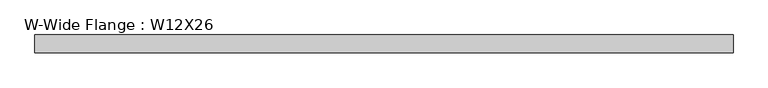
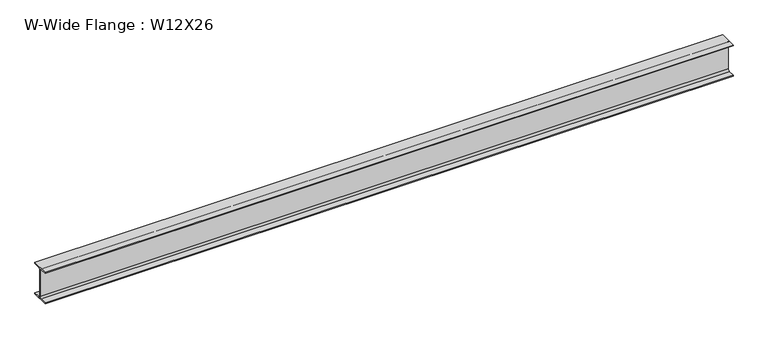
"""IFC4 building model written with IfcOpenShell, lengths in millimetres: beam geometry, W-Wide Flange : W12X26."""

from ifc_helpers import new_model, si_unit, point, frame, frame_2d, origin, place, context, project, spatial, polyline, circle_curve, trimmed, segment, composite_curve, outline, extrude, source, transform, mapped, element, save


def w_wide_flange_w12x26_3f871b78(model_context):
    return source(origin(), model_context, "Body", "SweptSolid", [
        extrude(outline(composite_curve([segment(polyline([(82.4011719, -145.5539063), (82.4011719, -155.178125), (-82.4011719, -155.178125), (-82.4011719, -145.5539063), (-20.2902344, -145.5539063)]), True, "CONTINUOUS"), segment(trimmed(circle_curve(frame_2d((-20.2902344, -128.190625)), 17.3632812), [point((-20.2902344, -145.5539063))], [point((-2.9269531, -128.190625))], True, "CARTESIAN"), True, "CONTINUOUS"), segment(polyline([(-2.9269531, -128.190625), (-2.9269531, 128.190625)]), True, "CONTINUOUS"), segment(trimmed(circle_curve(frame_2d((-20.2902344, 128.190625)), 17.3632812), [point((-2.9269531, 128.190625))], [point((-20.2902344, 145.5539062))], True, "CARTESIAN"), True, "CONTINUOUS"), segment(polyline([(-20.2902344, 145.5539062), (-82.4011719, 145.5539062), (-82.4011719, 155.178125), (82.4011719, 155.178125), (82.4011719, 145.5539062), (20.2902344, 145.5539062)]), True, "CONTINUOUS"), segment(trimmed(circle_curve(frame_2d((20.2902344, 128.190625)), 17.3632812), [point((20.2902344, 145.5539062))], [point((2.9269531, 128.190625))], True, "CARTESIAN"), True, "CONTINUOUS"), segment(polyline([(2.9269531, 128.190625), (2.9269531, -128.190625)]), True, "CONTINUOUS"), segment(trimmed(circle_curve(frame_2d((20.2902344, -128.190625)), 17.3632812), [point((2.9269531, -128.190625))], [point((20.2902344, -145.5539063))], True, "CARTESIAN"), True, "CONTINUOUS"), segment(polyline([(20.2902344, -145.5539063), (82.4011719, -145.5539063)]), True, "CONTINUOUS")], self_intersect=False)), frame((-3219.9874869, 0.0, 0.0), z_axis=(1.0, 0.0, 0.0), x_axis=(0.0, 1.0, 0.0)), (0.0, 0.0, 1.0), 6439.9749737),
    ])


if __name__ == "__main__":
    model = new_model("IFC4")
    model_context = context("Model", 3, world=origin())
    ifc_project = project(units=[si_unit("LENGTHUNIT", "METRE", prefix="MILLI")], contexts=[model_context])
    site = spatial("IfcSite", under=ifc_project)
    building = spatial("IfcBuilding", under=site)
    placement = place(None, origin())
    w_wide_flange_w12x26_shape = w_wide_flange_w12x26_3f871b78(model_context)
    element("IfcBeam", 1, ObjectType="W-Wide Flange : W12X26", at=placement, inside=building, context=model_context, shape_type="MappedRepresentation", body=[
        mapped(w_wide_flange_w12x26_shape, transform((0.0, 0.0, 0.0), x_axis=(1.0, 0.0, 0.0), y_axis=(0.0, 1.0, 0.0), z_axis=(0.0, 0.0, 1.0))),
    ])
    save(model, "model.ifc")
